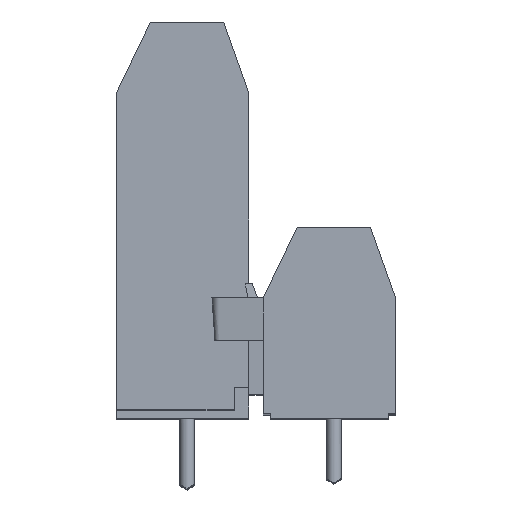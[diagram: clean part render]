
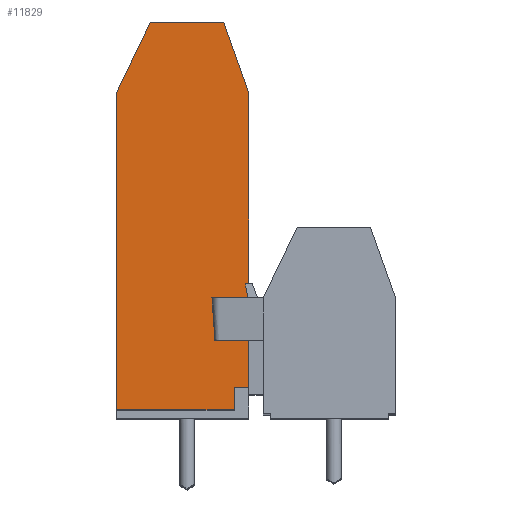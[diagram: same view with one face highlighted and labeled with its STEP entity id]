
A CAD part, top view. The second image highlights one B-rep face of the part: STEP entity #11829.
In plain terms, the highlighted planar face has unit normal (0, 0, 1).
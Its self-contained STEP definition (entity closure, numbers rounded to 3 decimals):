
#348 = LINE ( 'NONE', #26581, #53237 ) ;
#1421 = LINE ( 'NONE', #8670, #69457 ) ;
#2385 = VERTEX_POINT ( 'NONE', #61305 ) ;
#2788 = DIRECTION ( 'NONE',  ( 0., 0., -1. ) ) ;
#4320 = CARTESIAN_POINT ( 'NONE',  ( 14.263, 6.747, -2.98 ) ) ;
#4968 = CARTESIAN_POINT ( 'NONE',  ( 14.263, 11.847, -2.98 ) ) ;
#5422 = ORIENTED_EDGE ( 'NONE', *, *, #46122, .T. ) ;
#7021 = EDGE_LOOP ( 'NONE', ( #77833, #30057, #65955, #47103, #52595, #31935, #45100, #36899, #68714, #62774, #51860, #48075, #5422 ) ) ;
#7022 = LINE ( 'NONE', #73863, #42052 ) ;
#7098 = DIRECTION ( 'NONE',  ( -0.432, -0.902, 0. ) ) ;
#8606 = DIRECTION ( 'NONE',  ( -1., 0., 0. ) ) ;
#8670 = CARTESIAN_POINT ( 'NONE',  ( 14.263, -0.353, -2.98 ) ) ;
#8678 = CARTESIAN_POINT ( 'NONE',  ( 14.263, -0.353, -2.98 ) ) ;
#10473 = VERTEX_POINT ( 'NONE', #51005 ) ;
#11064 = DIRECTION ( 'NONE',  ( 0., 0., -1. ) ) ;
#11401 = VECTOR ( 'NONE', #11732, 1000. ) ;
#11732 = DIRECTION ( 'NONE',  ( 0., -1., 0. ) ) ;
#11829 = ADVANCED_FACE ( 'NONE', ( #60098 ), #60159, .F. ) ;
#12584 = DIRECTION ( 'NONE',  ( 0., 1., 0. ) ) ;
#14492 = EDGE_CURVE ( 'NONE', #57697, #63554, #35492, .T. ) ;
#14521 = CARTESIAN_POINT ( 'NONE',  ( 12.563, 24.547, -2.98 ) ) ;
#17199 = VECTOR ( 'NONE', #55045, 1000. ) ;
#18612 = VECTOR ( 'NONE', #7098, 1000. ) ;
#20501 = CARTESIAN_POINT ( 'NONE',  ( 14.208, 5.747, -2.98 ) ) ;
#20663 = DIRECTION ( 'NONE',  ( 0., 1., 0. ) ) ;
#21825 = CARTESIAN_POINT ( 'NONE',  ( 14.429, 6.747, -2.98 ) ) ;
#22344 = DIRECTION ( 'NONE',  ( 1., 0., 0. ) ) ;
#23972 = EDGE_CURVE ( 'NONE', #31369, #41143, #1421, .T. ) ;
#24349 = EDGE_CURVE ( 'NONE', #41143, #10473, #7022, .T. ) ;
#25250 = VERTEX_POINT ( 'NONE', #77936 ) ;
#26581 = CARTESIAN_POINT ( 'NONE',  ( 14.263, -1.885, -2.98 ) ) ;
#26856 = VECTOR ( 'NONE', #56796, 1000. ) ;
#27906 = VECTOR ( 'NONE', #22344, 1000. ) ;
#28250 = CARTESIAN_POINT ( 'NONE',  ( 12.563, 24.547, -2.98 ) ) ;
#28986 = VERTEX_POINT ( 'NONE', #39678 ) ;
#29084 = LINE ( 'NONE', #31564, #62162 ) ;
#29470 = CARTESIAN_POINT ( 'NONE',  ( 14.052, 6.63, -2.98 ) ) ;
#30057 = ORIENTED_EDGE ( 'NONE', *, *, #14492, .T. ) ;
#31174 = CARTESIAN_POINT ( 'NONE',  ( 14.863, 5.747, -2.98 ) ) ;
#31369 = VERTEX_POINT ( 'NONE', #64469 ) ;
#31564 = CARTESIAN_POINT ( 'NONE',  ( 13.273, -0.353, -2.98 ) ) ;
#31935 = ORIENTED_EDGE ( 'NONE', *, *, #37835, .T. ) ;
#31943 = DIRECTION ( 'NONE',  ( 1., 0., 0. ) ) ;
#33415 = AXIS2_PLACEMENT_3D ( 'NONE', #74386, #2788, #8606 ) ;
#33522 = VERTEX_POINT ( 'NONE', #56581 ) ;
#33706 = CARTESIAN_POINT ( 'NONE',  ( 5.263, 11.847, -2.98 ) ) ;
#35213 = LINE ( 'NONE', #60322, #17199 ) ;
#35331 = EDGE_CURVE ( 'NONE', #10473, #28986, #77564, .T. ) ;
#35492 = LINE ( 'NONE', #21825, #27906 ) ;
#36899 = ORIENTED_EDGE ( 'NONE', *, *, #75851, .T. ) ;
#37835 = EDGE_CURVE ( 'NONE', #25250, #54813, #45096, .T. ) ;
#38818 = VECTOR ( 'NONE', #42528, 1000. ) ;
#38938 = CARTESIAN_POINT ( 'NONE',  ( 14.151, 6.747, -2.98 ) ) ;
#39526 = DIRECTION ( 'NONE',  ( 1., 0., 0. ) ) ;
#39678 = CARTESIAN_POINT ( 'NONE',  ( 14.208, 5.747, -2.98 ) ) ;
#41143 = VERTEX_POINT ( 'NONE', #8678 ) ;
#42052 = VECTOR ( 'NONE', #12584, 1000. ) ;
#42528 = DIRECTION ( 'NONE',  ( -1., 0., 0. ) ) ;
#43042 = CARTESIAN_POINT ( 'NONE',  ( 5.263, 19.747, -2.98 ) ) ;
#43791 = DIRECTION ( 'NONE',  ( -0.174, 0.985, 0. ) ) ;
#45096 = LINE ( 'NONE', #43042, #18612 ) ;
#45100 = ORIENTED_EDGE ( 'NONE', *, *, #48950, .T. ) ;
#46122 = EDGE_CURVE ( 'NONE', #28986, #46528, #49697, .T. ) ;
#46528 = VERTEX_POINT ( 'NONE', #29470 ) ;
#47103 = ORIENTED_EDGE ( 'NONE', *, *, #52799, .T. ) ;
#48075 = ORIENTED_EDGE ( 'NONE', *, *, #35331, .T. ) ;
#48950 = EDGE_CURVE ( 'NONE', #54813, #33522, #64332, .T. ) ;
#49697 = LINE ( 'NONE', #20501, #52378 ) ;
#50631 = AXIS2_PLACEMENT_3D ( 'NONE', #4968, #11064, #53322 ) ;
#51005 = CARTESIAN_POINT ( 'NONE',  ( 14.263, 5.747, -2.98 ) ) ;
#51860 = ORIENTED_EDGE ( 'NONE', *, *, #24349, .T. ) ;
#52378 = VECTOR ( 'NONE', #43791, 1000. ) ;
#52397 = LINE ( 'NONE', #14521, #26856 ) ;
#52595 = ORIENTED_EDGE ( 'NONE', *, *, #53860, .T. ) ;
#52799 = EDGE_CURVE ( 'NONE', #53541, #75418, #52397, .T. ) ;
#53237 = VECTOR ( 'NONE', #39526, 1000. ) ;
#53322 = DIRECTION ( 'NONE',  ( -1., 0., 0. ) ) ;
#53541 = VERTEX_POINT ( 'NONE', #57435 ) ;
#53860 = EDGE_CURVE ( 'NONE', #75418, #25250, #35213, .T. ) ;
#54813 = VERTEX_POINT ( 'NONE', #70448 ) ;
#55045 = DIRECTION ( 'NONE',  ( -1., 0., 0. ) ) ;
#55050 = EDGE_CURVE ( 'NONE', #46528, #57697, #64337, .T. ) ;
#56581 = CARTESIAN_POINT ( 'NONE',  ( 5.263, -1.885, -2.98 ) ) ;
#56796 = DIRECTION ( 'NONE',  ( -0.334, 0.943, 0. ) ) ;
#57435 = CARTESIAN_POINT ( 'NONE',  ( 14.263, 19.747, -2.98 ) ) ;
#57697 = VERTEX_POINT ( 'NONE', #38938 ) ;
#60098 = FACE_OUTER_BOUND ( 'NONE', #7021, .T. ) ;
#60159 = PLANE ( 'NONE',  #50631 ) ;
#60322 = CARTESIAN_POINT ( 'NONE',  ( 7.563, 24.547, -2.98 ) ) ;
#61305 = CARTESIAN_POINT ( 'NONE',  ( 13.273, -1.885, -2.98 ) ) ;
#62162 = VECTOR ( 'NONE', #74085, 1000. ) ;
#62774 = ORIENTED_EDGE ( 'NONE', *, *, #23972, .T. ) ;
#63232 = CARTESIAN_POINT ( 'NONE',  ( 14.263, 19.747, -2.98 ) ) ;
#63554 = VERTEX_POINT ( 'NONE', #4320 ) ;
#64332 = LINE ( 'NONE', #33706, #11401 ) ;
#64337 = CIRCLE ( 'NONE', #33415, 0.1 ) ;
#64469 = CARTESIAN_POINT ( 'NONE',  ( 13.273, -0.353, -2.98 ) ) ;
#65143 = EDGE_CURVE ( 'NONE', #63554, #53541, #67911, .T. ) ;
#65955 = ORIENTED_EDGE ( 'NONE', *, *, #65143, .T. ) ;
#66571 = EDGE_CURVE ( 'NONE', #31369, #2385, #29084, .T. ) ;
#67911 = LINE ( 'NONE', #63232, #73622 ) ;
#68714 = ORIENTED_EDGE ( 'NONE', *, *, #66571, .F. ) ;
#69457 = VECTOR ( 'NONE', #31943, 1000. ) ;
#70448 = CARTESIAN_POINT ( 'NONE',  ( 5.263, 19.747, -2.98 ) ) ;
#73622 = VECTOR ( 'NONE', #20663, 1000. ) ;
#73863 = CARTESIAN_POINT ( 'NONE',  ( 14.263, 19.747, -2.98 ) ) ;
#74085 = DIRECTION ( 'NONE',  ( 0., -1., 0. ) ) ;
#74386 = CARTESIAN_POINT ( 'NONE',  ( 14.151, 6.647, -2.98 ) ) ;
#75418 = VERTEX_POINT ( 'NONE', #28250 ) ;
#75851 = EDGE_CURVE ( 'NONE', #33522, #2385, #348, .T. ) ;
#77564 = LINE ( 'NONE', #31174, #38818 ) ;
#77833 = ORIENTED_EDGE ( 'NONE', *, *, #55050, .T. ) ;
#77936 = CARTESIAN_POINT ( 'NONE',  ( 7.563, 24.547, -2.98 ) ) ;
